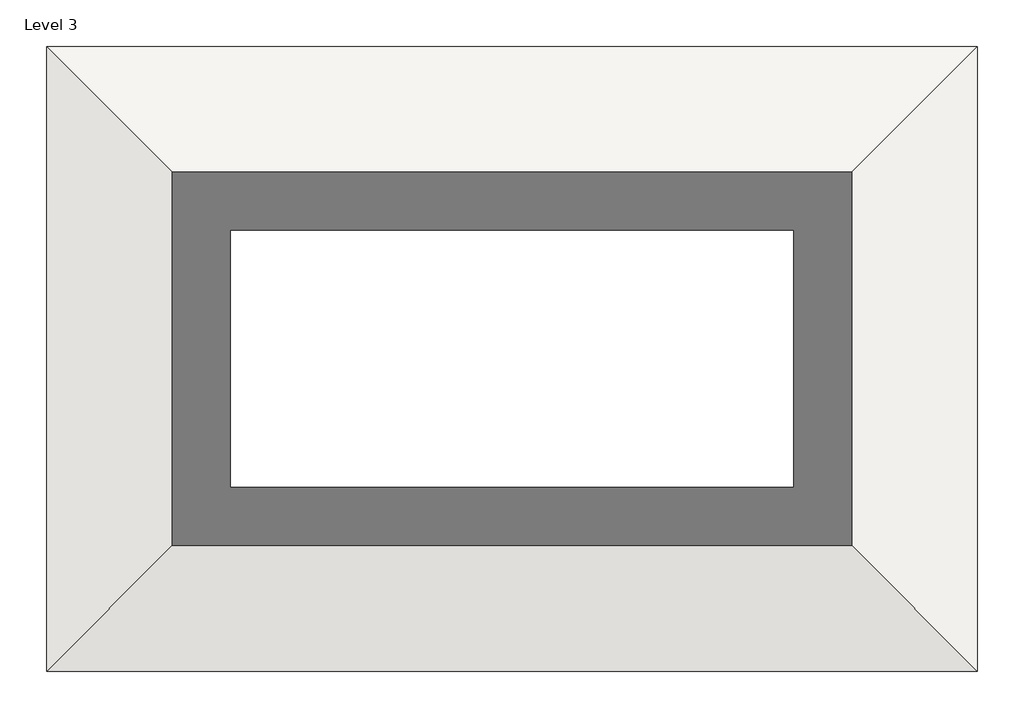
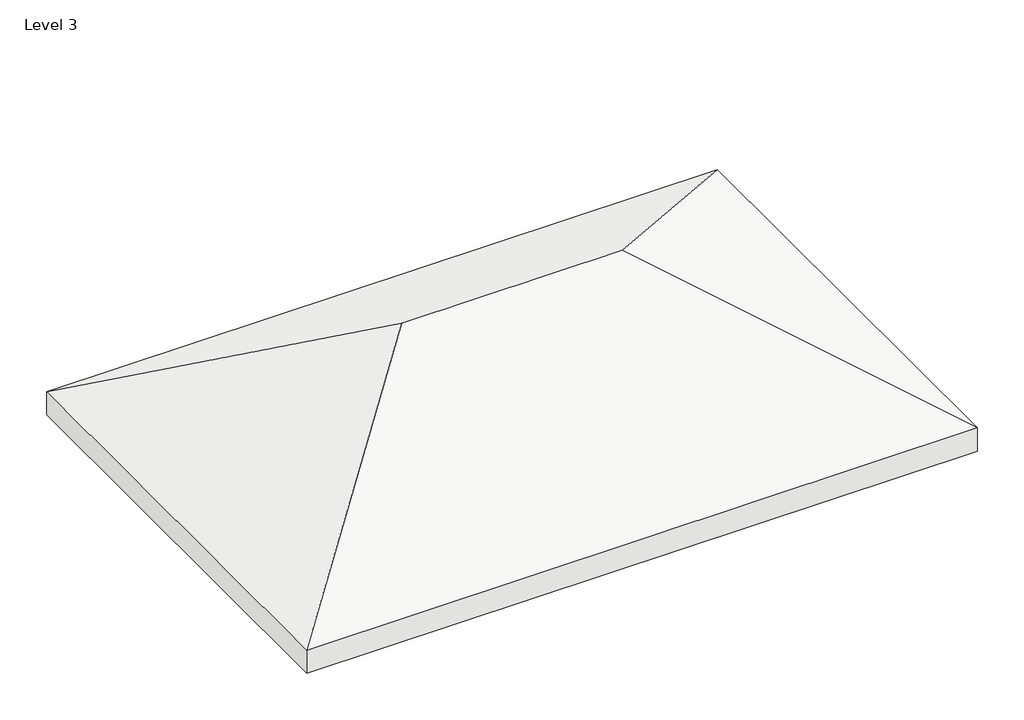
# One storey: 1 roof.
"""IFC4 building model written with IfcOpenShell, lengths in millimetres."""

from ifc_helpers import new_model, si_unit, origin, place, context, project, spatial, faceted_brep, element, save

model = new_model("IFC4")

# Units and contexts
model_context = context("Model", 3, world=origin())
ifc_project = project(units=[si_unit("LENGTHUNIT", "METRE", prefix="MILLI")], contexts=[model_context])

# Site, building, storey
site = spatial("IfcSite", under=ifc_project)
building = spatial("IfcBuilding", under=site)
storey = spatial("IfcBuildingStorey", under=building, Name="Level 3", Elevation=8000.0)

# Roof
placement = place(None, origin())
element("IfcRoof", 1, ObjectType="Warm Roof - Concrete", at=placement, inside=storey, context=model_context, shape_type="Brep", body=[
    faceted_brep([(-3349.3047465, -1543.6516354, 10035.1596989), (175.6952535, 1981.3483646, 8000.0), (175.6952535, -5068.6516354, 8000.0), (-10324.3047465, 1981.3483646, 8000.0), (-6799.3047465, -1543.6516354, 10035.1596989), (-10324.3047465, -5068.6516354, 8000.0), (175.6952535, 1981.3483646, 8384.5152793), (-3349.3047465, -1543.6516354, 10419.6749782), (175.6952535, -5068.6516354, 8384.5152793), (-10324.3047465, 1981.3483646, 8384.5152793), (-10324.3047465, -5068.6516354, 8384.5152793), (-6799.3047465, -1543.6516354, 10419.6749782)], [[[0, 1, 2]], [[3, 4, 5]], [[1, 0, 4, 3]], [[5, 4, 0, 2]], [[6, 7, 8]], [[9, 10, 11]], [[6, 9, 11, 7]], [[10, 8, 7, 11]], [[3, 9, 6, 1]], [[5, 10, 9, 3]], [[2, 8, 10, 5]], [[1, 6, 8, 2]]]),
])

save(model, "model.ifc")
